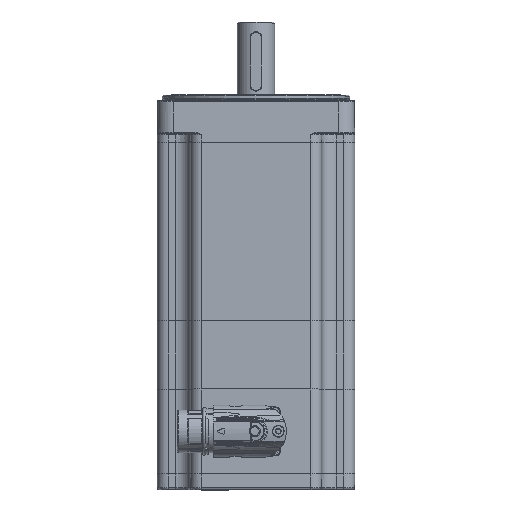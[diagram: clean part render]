
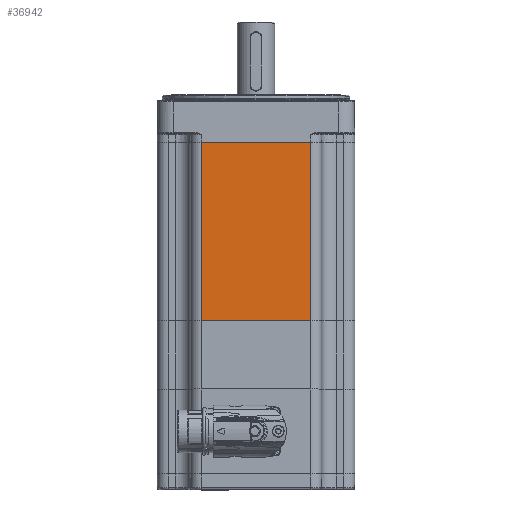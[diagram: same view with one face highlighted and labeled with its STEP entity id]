
A CAD part, top view. The second image highlights one B-rep face of the part: STEP entity #36942.
In plain terms, the highlighted planar face has unit normal (0, 0, 1).
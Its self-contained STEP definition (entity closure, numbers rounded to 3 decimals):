
#8788=ORIENTED_EDGE('',*,*,#13366,.T.);
#8789=ORIENTED_EDGE('',*,*,#13299,.T.);
#8790=ORIENTED_EDGE('',*,*,#13367,.T.);
#8791=ORIENTED_EDGE('',*,*,#13329,.T.);
#13299=EDGE_CURVE('',#16136,#16137,#18170,.T.);
#13329=EDGE_CURVE('',#16167,#16165,#18182,.T.);
#13366=EDGE_CURVE('',#16165,#16136,#18200,.T.);
#13367=EDGE_CURVE('',#16137,#16167,#18201,.T.);
#16136=VERTEX_POINT('',#59348);
#16137=VERTEX_POINT('',#59349);
#16165=VERTEX_POINT('',#59407);
#16167=VERTEX_POINT('',#59410);
#18170=LINE('',#59347,#19890);
#18182=LINE('',#59409,#19902);
#18200=LINE('',#59487,#19920);
#18201=LINE('',#59488,#19921);
#19890=VECTOR('',#45369,1000.);
#19902=VECTOR('',#45419,1000.);
#19920=VECTOR('',#45497,1000.);
#19921=VECTOR('',#45498,1000.);
#21776=EDGE_LOOP('',(#8788,#8789,#8790,#8791));
#23954=FACE_BOUND('',#21776,.T.);
#25104=PLANE('',#39399);
#36942=ADVANCED_FACE('',(#23954),#25104,.T.);
#39399=AXIS2_PLACEMENT_3D('',#59486,#45495,#45496);
#45369=DIRECTION('',(-1.,0.,0.));
#45419=DIRECTION('',(1.,0.,0.));
#45495=DIRECTION('',(0.,0.,1.));
#45496=DIRECTION('',(1.,0.,0.));
#45497=DIRECTION('',(0.,1.,0.));
#45498=DIRECTION('',(0.,-1.,0.));
#59347=CARTESIAN_POINT('',(50.,91.5,50.));
#59348=CARTESIAN_POINT('',(27.75,91.5,50.));
#59349=CARTESIAN_POINT('',(-27.75,91.5,50.));
#59407=CARTESIAN_POINT('',(27.75,1.,50.));
#59409=CARTESIAN_POINT('',(50.,1.,50.));
#59410=CARTESIAN_POINT('',(-27.75,1.,50.));
#59486=CARTESIAN_POINT('',(50.,200.,50.));
#59487=CARTESIAN_POINT('',(27.75,200.,50.));
#59488=CARTESIAN_POINT('',(-27.75,200.,50.));
